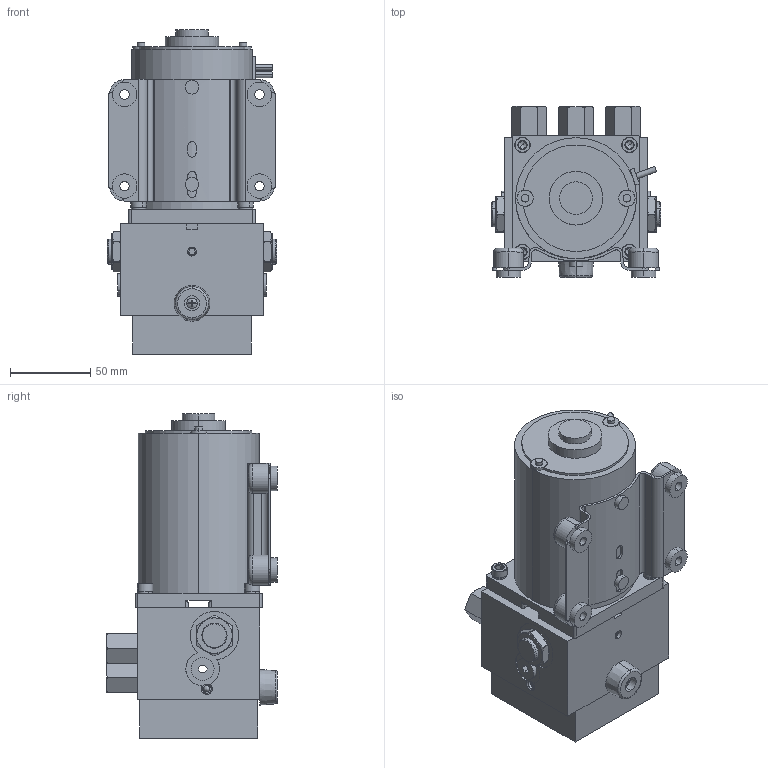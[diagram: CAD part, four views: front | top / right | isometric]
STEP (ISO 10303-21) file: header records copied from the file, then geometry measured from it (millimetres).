
FILE_DESCRIPTION (( 'STEP AP214' ), '1' );
FILE_NAME ('600-071.STEP', '2018-08-29T16:04:28', ( '' ), ( '' ), 'SwSTEP 2.0', 'SolidWorks 2017', '' );
FILE_SCHEMA (( 'AUTOMOTIVE_DESIGN' ));
Length unit declared in the file: inch
Products named in the file (1): 600-071
Bounding box: 105.61 x 106.58 x 202.31 mm (x, y, z)
Surface area: 119100.9 mm2 (no closed solid volume)
Topology: 0 solids, 40 shells, 638 faces, 2171 edges, 1551 vertices
Faces by surface type: plane 327, cylinder 179, cone 61, bspline 53, torus 18
Entity records: 37860 total; most frequent: CARTESIAN_POINT 11687, ORIENTED_EDGE 3448, DIRECTION 3424, EDGE_CURVE 2163, VERTEX_POINT 1551, VECTOR 1160, LINE 1160, AXIS2_PLACEMENT_3D 1132
